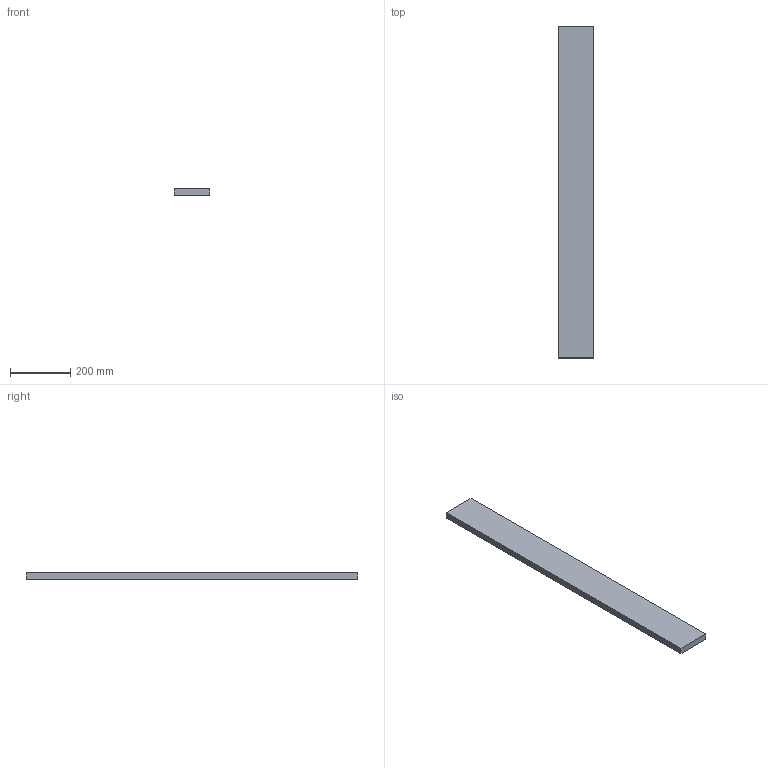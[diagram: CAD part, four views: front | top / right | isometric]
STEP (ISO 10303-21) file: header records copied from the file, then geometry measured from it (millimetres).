
FILE_DESCRIPTION(('Open CASCADE Model'),'2;1');
FILE_NAME('Open CASCADE Shape Model','2026-03-30T20:16:05',('Author'),( 'Open CASCADE'),'Open CASCADE STEP processor 7.8','Open CASCADE 7.8' ,'Unknown');
FILE_SCHEMA(('AUTOMOTIVE_DESIGN { 1 0 10303 214 1 1 1 1 }'));
Length unit declared in the file: millimetre
Products named in the file (1): Open CASCADE STEP translator 7.8 20
Bounding box: 116 x 1100 x 22 mm (x, y, z)
Volume: 2807200 mm3; surface area: 308704 mm2
Topology: 1 solids, 1 shells, 6 faces, 12 edges, 8 vertices
Faces by surface type: plane 6
Entity records: 322 total; most frequent: CARTESIAN_POINT 51, DIRECTION 50, LINE 36, VECTOR 36, ORIENTED_EDGE 24, PCURVE 24, DEFINITIONAL_REPRESENTATION 24, EDGE_CURVE 12
